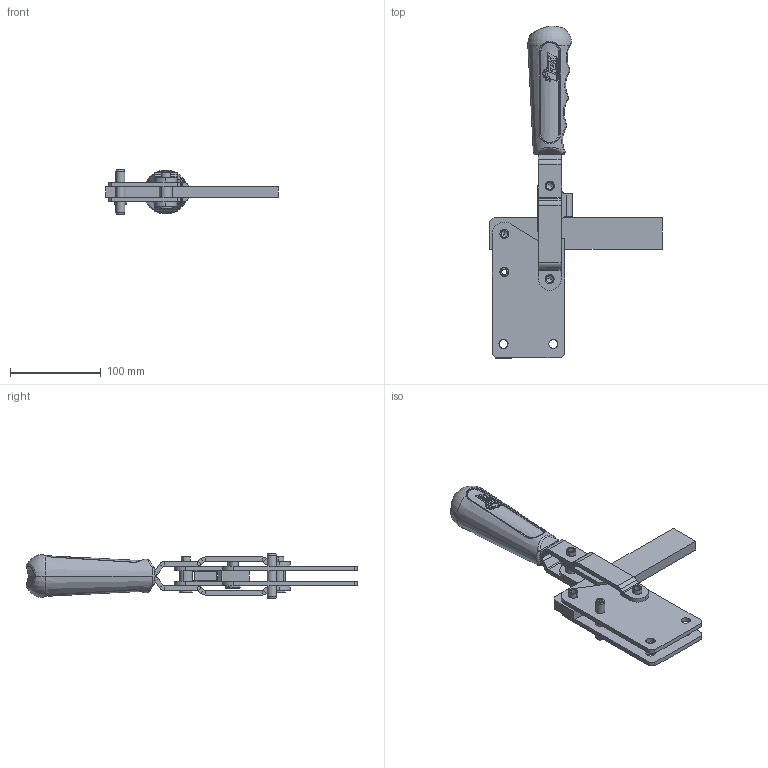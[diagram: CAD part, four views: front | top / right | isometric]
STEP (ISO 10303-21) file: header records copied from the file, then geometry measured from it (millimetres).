
FILE_DESCRIPTION (( 'STEP AP214' ), '1' );
FILE_NAME ('205_B.STEP', '2024-09-09T16:35:04', ( '' ), ( '' ), 'SwSTEP 2.0', 'SolidWorks 2023', '' );
FILE_SCHEMA (( 'AUTOMOTIVE_DESIGN' ));
Length unit declared in the file: millimetre
Products named in the file (11): FZK_205_B_03_00; FZK_205_B_06_00; 205_B; FZK_205_B_05_00; spring pin slotted_hd_din_Spring Pin ISO 8752 - 10 x 50 - St; FZK_205_B_04_00; FZK_205_B_07_00; FZK_205_B_02_00; FZK_205_B_02A_00; FZK_205_B_01_00; TTMK_05_00
Assembly tree (15 placements, depth 3):
  205_B
    FZK_205_B_03_00
    FZK_205_B_01_00  x2
    FZK_205_B_02_00
      FZK_205_B_02A_00  x2
    TTMK_05_00
    FZK_205_B_04_00
    FZK_205_B_05_00  x2
    FZK_205_B_07_00  x2
    spring pin slotted_hd_din_Spring Pin ISO 8752 - 10 x 50 - St
    FZK_205_B_06_00  x2
Bounding box: 190.03 x 366.38 x 50 mm (x, y, z)
Volume: 435320.2 mm3; surface area: 152910 mm2
Topology: 14 solids, 14 shells, 582 faces, 1420 edges, 865 vertices
Faces by surface type: bspline 209, plane 154, cylinder 150, cone 43, sphere 20, torus 6
Entity records: 27136 total; most frequent: CARTESIAN_POINT 17408, ORIENTED_EDGE 2286, DIRECTION 1387, EDGE_CURVE 1143, VERTEX_POINT 713, B_SPLINE_CURVE_WITH_KNOTS 572, AXIS2_PLACEMENT_3D 556, EDGE_LOOP 506
